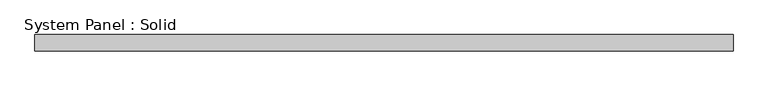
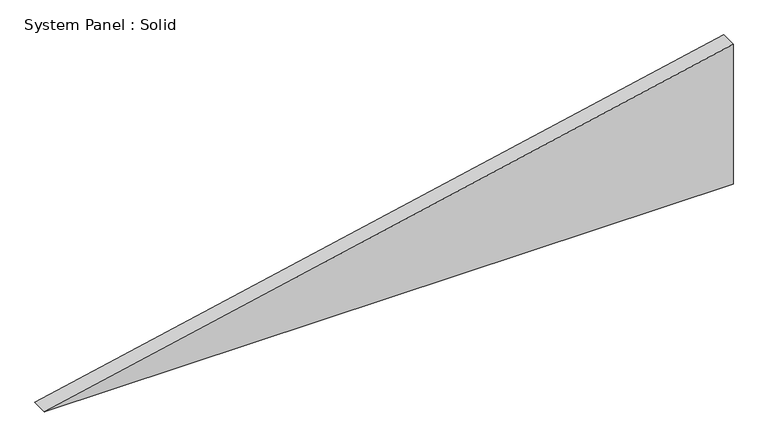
"""IFC4 building model written with IfcOpenShell, lengths in millimetres: plate geometry, System Panel : Solid."""

from ifc_helpers import new_model, si_unit, frame, origin, place, context, project, spatial, polyline, outline, extrude, source, transform, mapped, element, save


def system_panel_solid_ae3a6953(model_context):
    return source(origin(), model_context, "Body", "SweptSolid", [
        extrude(outline(polyline([(0.0, -1341.8861836), (0.0, 1341.8861836), (576.6532474, 1341.8861836), (0.0, -1341.8861836)])), frame((0.0, -19.05, 0.0), z_axis=(0.0, 1.0, 0.0), x_axis=(0.0, 0.0, 1.0)), (0.0, 0.0, 1.0), 63.5),
    ])


if __name__ == "__main__":
    model = new_model("IFC4")
    model_context = context("Model", 3, world=origin())
    ifc_project = project(units=[si_unit("LENGTHUNIT", "METRE", prefix="MILLI")], contexts=[model_context])
    site = spatial("IfcSite", under=ifc_project)
    building = spatial("IfcBuilding", under=site)
    placement = place(None, origin())
    system_panel_solid_shape = system_panel_solid_ae3a6953(model_context)
    element("IfcPlate", 1, ObjectType="System Panel : Solid", at=placement, inside=building, context=model_context, shape_type="MappedRepresentation", body=[
        mapped(system_panel_solid_shape, transform((0.0, 0.0, 0.0), x_axis=(1.0, 0.0, 0.0), y_axis=(0.0, 1.0, 0.0), z_axis=(0.0, 0.0, 1.0))),
    ])
    save(model, "model.ifc")
